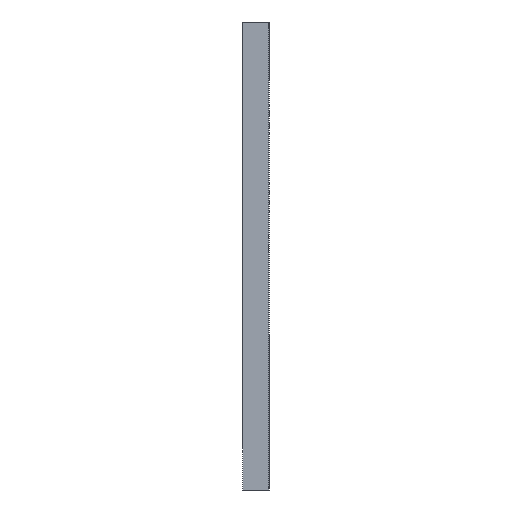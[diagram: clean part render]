
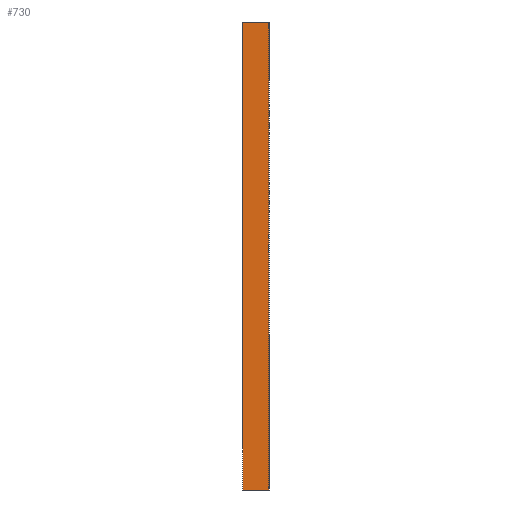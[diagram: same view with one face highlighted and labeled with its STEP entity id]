
A CAD part, left-side view. The second image highlights one B-rep face of the part: STEP entity #730.
In plain terms, the highlighted planar face has unit normal (-1, 0, 0).
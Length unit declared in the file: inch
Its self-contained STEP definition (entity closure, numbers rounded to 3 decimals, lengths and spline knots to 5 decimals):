
#22 = ORIENTED_EDGE ( 'NONE', *, *, #1180, .F. ) ;
#42 = LINE ( 'NONE', #4059, #3675 ) ;
#52 = CARTESIAN_POINT ( 'NONE',  ( -8.52128, 0.5, -3.75798 ) ) ;
#112 = CARTESIAN_POINT ( 'NONE',  ( -8.52128, 0., -3.75798 ) ) ;
#133 = ORIENTED_EDGE ( 'NONE', *, *, #1695, .T. ) ;
#232 = EDGE_LOOP ( 'NONE', ( #133, #22, #1772, #2785 ) ) ;
#252 = DIRECTION ( 'NONE',  ( 0., 0., -1. ) ) ;
#272 = CARTESIAN_POINT ( 'NONE',  ( -8.52128, 0., -3.75798 ) ) ;
#601 = VERTEX_POINT ( 'NONE', #1817 ) ;
#730 = ADVANCED_FACE ( 'NONE', ( #1386 ), #3235, .F. ) ;
#832 = VECTOR ( 'NONE', #2180, 39.37008 ) ;
#1060 = EDGE_CURVE ( 'NONE', #601, #3823, #4114, .T. ) ;
#1078 = CARTESIAN_POINT ( 'NONE',  ( -8.52128, 0.5, -3.75798 ) ) ;
#1085 = DIRECTION ( 'NONE',  ( 0., -1., 0. ) ) ;
#1128 = CARTESIAN_POINT ( 'NONE',  ( -8.52128, 0.5, -3.75798 ) ) ;
#1180 = EDGE_CURVE ( 'NONE', #3760, #1813, #42, .T. ) ;
#1272 = DIRECTION ( 'NONE',  ( 0., -1., 0. ) ) ;
#1386 = FACE_OUTER_BOUND ( 'NONE', #232, .T. ) ;
#1494 = EDGE_CURVE ( 'NONE', #601, #3760, #1597, .T. ) ;
#1503 = VECTOR ( 'NONE', #1085, 39.37008 ) ;
#1584 = AXIS2_PLACEMENT_3D ( 'NONE', #1128, #4091, #252 ) ;
#1597 = LINE ( 'NONE', #1078, #832 ) ;
#1617 = CARTESIAN_POINT ( 'NONE',  ( -8.52128, 0., 5.24202 ) ) ;
#1695 = EDGE_CURVE ( 'NONE', #3823, #1813, #3398, .T. ) ;
#1772 = ORIENTED_EDGE ( 'NONE', *, *, #1494, .F. ) ;
#1813 = VERTEX_POINT ( 'NONE', #1617 ) ;
#1817 = CARTESIAN_POINT ( 'NONE',  ( -8.52128, 0.5, -3.75798 ) ) ;
#2180 = DIRECTION ( 'NONE',  ( 0., 0., 1. ) ) ;
#2785 = ORIENTED_EDGE ( 'NONE', *, *, #1060, .T. ) ;
#3235 = PLANE ( 'NONE',  #1584 ) ;
#3288 = CARTESIAN_POINT ( 'NONE',  ( -8.52128, 0.5, 5.24202 ) ) ;
#3398 = LINE ( 'NONE', #112, #4084 ) ;
#3675 = VECTOR ( 'NONE', #1272, 39.37008 ) ;
#3760 = VERTEX_POINT ( 'NONE', #3288 ) ;
#3811 = DIRECTION ( 'NONE',  ( 0., 0., 1. ) ) ;
#3823 = VERTEX_POINT ( 'NONE', #272 ) ;
#4059 = CARTESIAN_POINT ( 'NONE',  ( -8.52128, 0.5, 5.24202 ) ) ;
#4084 = VECTOR ( 'NONE', #3811, 39.37008 ) ;
#4091 = DIRECTION ( 'NONE',  ( 1., 0., 0. ) ) ;
#4114 = LINE ( 'NONE', #52, #1503 ) ;
